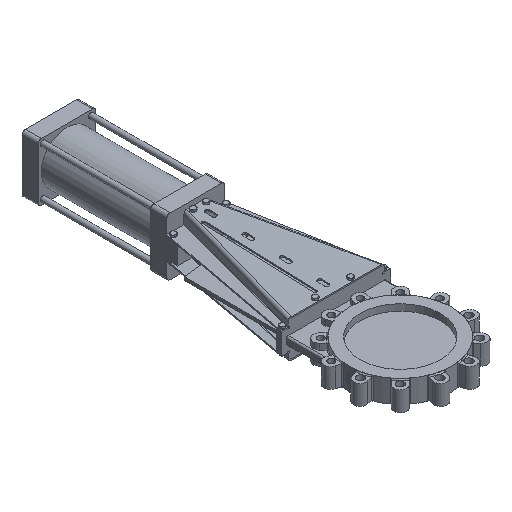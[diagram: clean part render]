
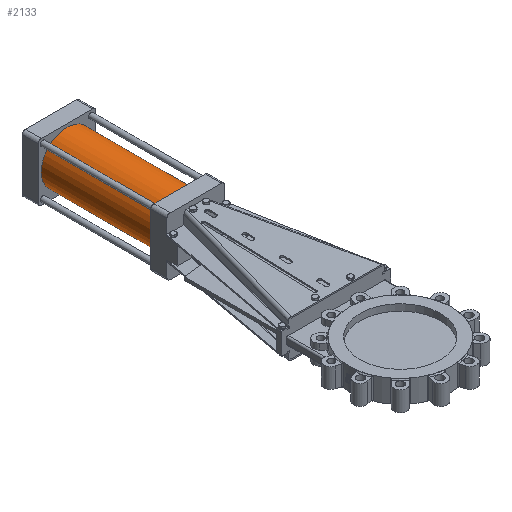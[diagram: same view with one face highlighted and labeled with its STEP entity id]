
A CAD part, isometric view. The second image highlights one B-rep face of the part: STEP entity #2133.
In plain terms, the highlighted cylindrical face has radius 80 mm (diameter 160 mm), a full revolution.
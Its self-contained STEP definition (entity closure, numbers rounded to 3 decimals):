
#2133=ADVANCED_FACE('',(#10313,#10315),#10317,.T.);
#10313=FACE_OUTER_BOUND('',#10314,.T.);
#10314=EDGE_LOOP('',(#17788));
#10315=FACE_OUTER_BOUND('',#10316,.T.);
#10316=EDGE_LOOP('',(#17789));
#10317=CYLINDRICAL_SURFACE('',#10318,80.);
#10318=AXIS2_PLACEMENT_3D('',#10319,#10320,#10321);
#10319=CARTESIAN_POINT('',(0.,687.,0.));
#10320=DIRECTION('',(0.,1.,0.));
#10321=DIRECTION('',(0.,0.,1.));
#17788=ORIENTED_EDGE('',*,*,#23308,.F.);
#17789=ORIENTED_EDGE('',*,*,#22902,.T.);
#22902=EDGE_CURVE('',#25954,#25954,#25955,.T.);
#23308=EDGE_CURVE('',#26638,#26638,#26639,.T.);
#25954=VERTEX_POINT('',#31104);
#25955=CIRCLE('',#31105,80.);
#26638=VERTEX_POINT('',#34647);
#26639=CIRCLE('',#34648,80.);
#31104=CARTESIAN_POINT('',(0.,687.,80.));
#31105=AXIS2_PLACEMENT_3D('',#31106,#31107,#31108);
#31106=CARTESIAN_POINT('',(0.,687.,0.));
#31107=DIRECTION('',(0.,1.,0.));
#31108=DIRECTION('',(0.,0.,1.));
#34647=CARTESIAN_POINT('',(0.,1038.,80.));
#34648=AXIS2_PLACEMENT_3D('',#34649,#34650,#34651);
#34649=CARTESIAN_POINT('',(0.,1038.,0.));
#34650=DIRECTION('',(0.,1.,0.));
#34651=DIRECTION('',(0.,0.,1.));
